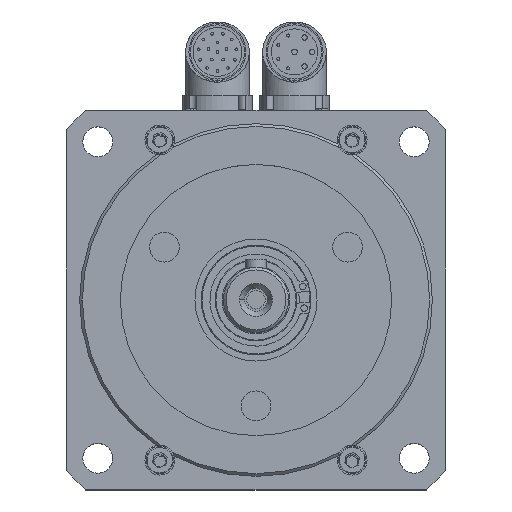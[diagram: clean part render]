
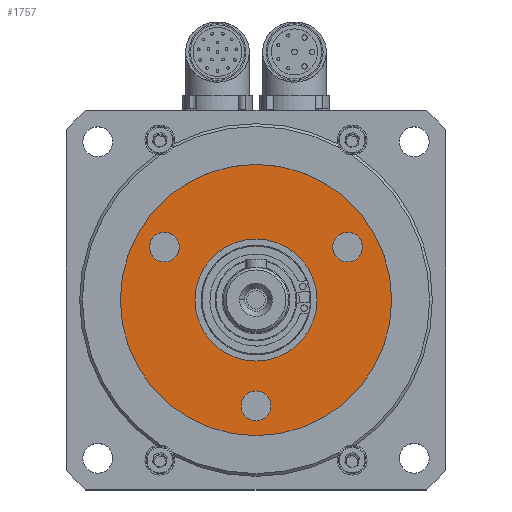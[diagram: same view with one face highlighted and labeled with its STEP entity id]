
A CAD part, top view. The second image highlights one B-rep face of the part: STEP entity #1757.
In plain terms, the highlighted planar face has unit normal (0, 0, 1).
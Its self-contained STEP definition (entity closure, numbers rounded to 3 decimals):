
#1329 = CARTESIAN_POINT ( 'NONE',  ( 50., 0., 21.5 ) ) ;
#1370 = CARTESIAN_POINT ( 'NONE',  ( -39.275, 19.5, 21.5 ) ) ;
#1757 = ADVANCED_FACE ( 'NONE', ( #5668, #5682, #5458, #4998, #5349 ), #15086, .T. ) ;
#4384 = AXIS2_PLACEMENT_3D ( 'NONE', #8026, #8027, #8028 ) ;
#4516 = AXIS2_PLACEMENT_3D ( 'NONE', #10378, #10397, #10398 ) ;
#4536 = AXIS2_PLACEMENT_3D ( 'NONE', #8335, #8341, #8342 ) ;
#4551 = AXIS2_PLACEMENT_3D ( 'NONE', #8376, #8377, #8378 ) ;
#4740 = AXIS2_PLACEMENT_3D ( 'NONE', #10835, #10849, #10850 ) ;
#4750 = AXIS2_PLACEMENT_3D ( 'NONE', #10731, #10751, #10752 ) ;
#4751 = AXIS2_PLACEMENT_3D ( 'NONE', #10745, #10754, #10755 ) ;
#4755 = AXIS2_PLACEMENT_3D ( 'NONE', #10727, #10729, #10730 ) ;
#4761 = AXIS2_PLACEMENT_3D ( 'NONE', #10684, #10693, #10694 ) ;
#4775 = AXIS2_PLACEMENT_3D ( 'NONE', #10676, #10696, #10697 ) ;
#4877 = CIRCLE ( 'NONE', #4551, 5.5 ) ;
#4916 = CIRCLE ( 'NONE', #4536, 50. ) ;
#4998 = FACE_OUTER_BOUND ( 'NONE', #10995, .T. ) ;
#4999 = CIRCLE ( 'NONE', #4516, 22.5 ) ;
#5018 = CIRCLE ( 'NONE', #4740, 5.5 ) ;
#5245 = CIRCLE ( 'NONE', #4750, 5.5 ) ;
#5256 = CIRCLE ( 'NONE', #4755, 50. ) ;
#5284 = CIRCLE ( 'NONE', #4761, 5.5 ) ;
#5349 = FACE_BOUND ( 'NONE', #10947, .T. ) ;
#5428 = CIRCLE ( 'NONE', #4775, 5.5 ) ;
#5458 = FACE_BOUND ( 'NONE', #11431, .T. ) ;
#5520 = CIRCLE ( 'NONE', #4751, 5.5 ) ;
#5668 = FACE_BOUND ( 'NONE', #11505, .T. ) ;
#5682 = FACE_BOUND ( 'NONE', #11550, .T. ) ;
#5685 = CIRCLE ( 'NONE', #4384, 22.5 ) ;
#6191 = CARTESIAN_POINT ( 'NONE',  ( 5.5, -39., 21.5 ) ) ;
#6239 = CARTESIAN_POINT ( 'NONE',  ( -22.5, 0., 21.5 ) ) ;
#6256 = CARTESIAN_POINT ( 'NONE',  ( 28.275, 19.5, 21.5 ) ) ;
#6313 = CARTESIAN_POINT ( 'NONE',  ( -5.5, -39., 21.5 ) ) ;
#6317 = CARTESIAN_POINT ( 'NONE',  ( -28.275, 19.5, 21.5 ) ) ;
#6334 = CARTESIAN_POINT ( 'NONE',  ( -50., 0., 21.5 ) ) ;
#6345 = CARTESIAN_POINT ( 'NONE',  ( 39.275, 19.5, 21.5 ) ) ;
#6426 = CARTESIAN_POINT ( 'NONE',  ( 22.5, 0., 21.5 ) ) ;
#8026 = CARTESIAN_POINT ( 'NONE',  ( 0., 0., 21.5 ) ) ;
#8027 = DIRECTION ( 'NONE',  ( 0., 0., 1. ) ) ;
#8028 = DIRECTION ( 'NONE',  ( 1., 0., 0. ) ) ;
#8335 = CARTESIAN_POINT ( 'NONE',  ( 0., 0., 21.5 ) ) ;
#8341 = DIRECTION ( 'NONE',  ( 0., 0., 1. ) ) ;
#8342 = DIRECTION ( 'NONE',  ( 1., 0., 0. ) ) ;
#8376 = CARTESIAN_POINT ( 'NONE',  ( -33.775, 19.5, 21.5 ) ) ;
#8377 = DIRECTION ( 'NONE',  ( 0., 0., 1. ) ) ;
#8378 = DIRECTION ( 'NONE',  ( 1., 0., 0. ) ) ;
#8504 = VERTEX_POINT ( 'NONE', #1329 ) ;
#8684 = VERTEX_POINT ( 'NONE', #1370 ) ;
#9086 = AXIS2_PLACEMENT_3D ( 'NONE', #15091, #15100, #15101 ) ;
#9191 = EDGE_CURVE ( 'NONE', #12793, #12948, #5685, .T. ) ;
#9445 = EDGE_CURVE ( 'NONE', #8504, #12856, #4916, .T. ) ;
#9464 = EDGE_CURVE ( 'NONE', #12839, #8684, #4877, .T. ) ;
#9591 = EDGE_CURVE ( 'NONE', #12948, #12793, #4999, .T. ) ;
#9686 = EDGE_CURVE ( 'NONE', #12867, #12802, #5284, .T. ) ;
#9687 = EDGE_CURVE ( 'NONE', #11848, #12835, #5428, .T. ) ;
#9697 = EDGE_CURVE ( 'NONE', #12856, #8504, #5256, .T. ) ;
#9703 = EDGE_CURVE ( 'NONE', #12802, #12867, #5245, .T. ) ;
#9704 = EDGE_CURVE ( 'NONE', #8684, #12839, #5520, .T. ) ;
#9741 = EDGE_CURVE ( 'NONE', #12835, #11848, #5018, .T. ) ;
#10378 = CARTESIAN_POINT ( 'NONE',  ( 0., 0., 21.5 ) ) ;
#10397 = DIRECTION ( 'NONE',  ( 0., 0., 1. ) ) ;
#10398 = DIRECTION ( 'NONE',  ( 1., 0., 0. ) ) ;
#10676 = CARTESIAN_POINT ( 'NONE',  ( 0., -39., 21.5 ) ) ;
#10684 = CARTESIAN_POINT ( 'NONE',  ( 33.775, 19.5, 21.5 ) ) ;
#10693 = DIRECTION ( 'NONE',  ( 0., 0., 1. ) ) ;
#10694 = DIRECTION ( 'NONE',  ( 1., 0., 0. ) ) ;
#10696 = DIRECTION ( 'NONE',  ( 0., 0., 1. ) ) ;
#10697 = DIRECTION ( 'NONE',  ( 1., 0., 0. ) ) ;
#10727 = CARTESIAN_POINT ( 'NONE',  ( 0., 0., 21.5 ) ) ;
#10729 = DIRECTION ( 'NONE',  ( 0., 0., 1. ) ) ;
#10730 = DIRECTION ( 'NONE',  ( 1., 0., 0. ) ) ;
#10731 = CARTESIAN_POINT ( 'NONE',  ( 33.775, 19.5, 21.5 ) ) ;
#10745 = CARTESIAN_POINT ( 'NONE',  ( -33.775, 19.5, 21.5 ) ) ;
#10751 = DIRECTION ( 'NONE',  ( 0., 0., 1. ) ) ;
#10752 = DIRECTION ( 'NONE',  ( 1., 0., 0. ) ) ;
#10754 = DIRECTION ( 'NONE',  ( 0., 0., 1. ) ) ;
#10755 = DIRECTION ( 'NONE',  ( 1., 0., 0. ) ) ;
#10835 = CARTESIAN_POINT ( 'NONE',  ( 0., -39., 21.5 ) ) ;
#10849 = DIRECTION ( 'NONE',  ( 0., 0., 1. ) ) ;
#10850 = DIRECTION ( 'NONE',  ( 1., 0., 0. ) ) ;
#10947 = EDGE_LOOP ( 'NONE', ( #14641, #14338 ) ) ;
#10995 = EDGE_LOOP ( 'NONE', ( #14579, #14431 ) ) ;
#11431 = EDGE_LOOP ( 'NONE', ( #14469, #14446 ) ) ;
#11505 = EDGE_LOOP ( 'NONE', ( #14517, #14468 ) ) ;
#11550 = EDGE_LOOP ( 'NONE', ( #14035, #14637 ) ) ;
#11848 = VERTEX_POINT ( 'NONE', #6191 ) ;
#12793 = VERTEX_POINT ( 'NONE', #6239 ) ;
#12802 = VERTEX_POINT ( 'NONE', #6256 ) ;
#12835 = VERTEX_POINT ( 'NONE', #6313 ) ;
#12839 = VERTEX_POINT ( 'NONE', #6317 ) ;
#12856 = VERTEX_POINT ( 'NONE', #6334 ) ;
#12867 = VERTEX_POINT ( 'NONE', #6345 ) ;
#12948 = VERTEX_POINT ( 'NONE', #6426 ) ;
#14035 = ORIENTED_EDGE ( 'NONE', *, *, #9686, .F. ) ;
#14338 = ORIENTED_EDGE ( 'NONE', *, *, #9191, .F. ) ;
#14431 = ORIENTED_EDGE ( 'NONE', *, *, #9697, .T. ) ;
#14446 = ORIENTED_EDGE ( 'NONE', *, *, #9741, .F. ) ;
#14468 = ORIENTED_EDGE ( 'NONE', *, *, #9704, .F. ) ;
#14469 = ORIENTED_EDGE ( 'NONE', *, *, #9687, .F. ) ;
#14517 = ORIENTED_EDGE ( 'NONE', *, *, #9464, .F. ) ;
#14579 = ORIENTED_EDGE ( 'NONE', *, *, #9445, .T. ) ;
#14637 = ORIENTED_EDGE ( 'NONE', *, *, #9703, .F. ) ;
#14641 = ORIENTED_EDGE ( 'NONE', *, *, #9591, .F. ) ;
#15086 = PLANE ( 'NONE',  #9086 ) ;
#15091 = CARTESIAN_POINT ( 'NONE',  ( 0., 50., 21.5 ) ) ;
#15100 = DIRECTION ( 'NONE',  ( 0., 0., 1. ) ) ;
#15101 = DIRECTION ( 'NONE',  ( 1., 0., 0. ) ) ;
